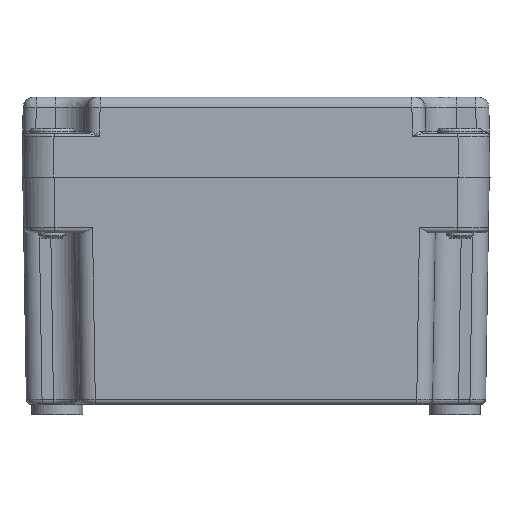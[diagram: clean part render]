
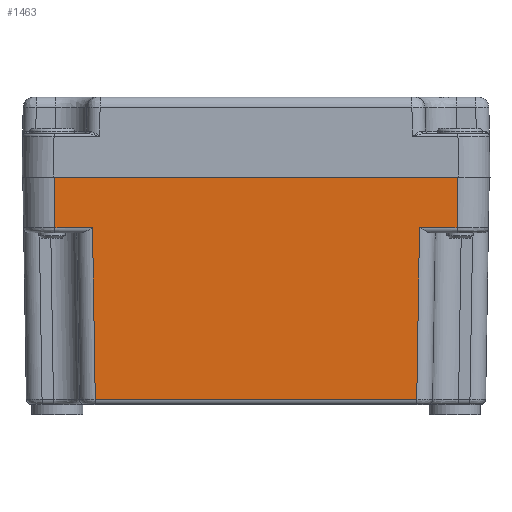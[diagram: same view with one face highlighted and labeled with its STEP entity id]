
A CAD part, front view. The second image highlights one B-rep face of the part: STEP entity #1463.
In plain terms, the highlighted planar face has unit normal (0, -1, -0.016).
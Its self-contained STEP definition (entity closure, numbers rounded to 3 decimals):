
#1183=CARTESIAN_POINT('',(-38.444,-44.444,-9.716));
#1184=VERTEX_POINT('',#1183);
#1202=CARTESIAN_POINT('',(-31.266,-44.444,-9.716));
#1203=VERTEX_POINT('',#1202);
#1215=CARTESIAN_POINT('',(-31.266,-44.444,-9.716));
#1216=DIRECTION('',(-1.0,0.0,0.0));
#1217=VECTOR('',#1216,7.178);
#1218=LINE('',#1215,#1217);
#1219=EDGE_CURVE('',#1203,#1184,#1218,.T.);
#1389=CARTESIAN_POINT('',(-38.601,-44.6,0.0));
#1390=VERTEX_POINT('',#1389);
#1391=CARTESIAN_POINT('',(-38.444,-44.444,-9.716));
#1392=DIRECTION('',(-0.016,-0.016,1.));
#1393=VECTOR('',#1392,9.719);
#1394=LINE('',#1391,#1393);
#1395=EDGE_CURVE('',#1184,#1390,#1394,.T.);
#1408=CARTESIAN_POINT('',(44.6,-44.6,0.0));
#1409=DIRECTION('',(0.0,-1.,-0.016));
#1410=DIRECTION('',(0.0,0.016,-1.));
#1411=AXIS2_PLACEMENT_3D('',#1408,#1409,#1410);
#1412=PLANE('',#1411);
#1413=ORIENTED_EDGE('',*,*,#1219,.F.);
#1414=CARTESIAN_POINT('',(-30.738,-43.916,-42.516));
#1415=VERTEX_POINT('',#1414);
#1416=CARTESIAN_POINT('',(-31.266,-44.444,-9.716));
#1417=DIRECTION('',(0.016,0.016,-1.));
#1418=VECTOR('',#1417,32.808);
#1419=LINE('',#1416,#1418);
#1420=EDGE_CURVE('',#1203,#1415,#1419,.T.);
#1421=ORIENTED_EDGE('',*,*,#1420,.T.);
#1422=CARTESIAN_POINT('',(30.738,-43.916,-42.516));
#1423=VERTEX_POINT('',#1422);
#1424=CARTESIAN_POINT('',(30.738,-43.916,-42.516));
#1425=DIRECTION('',(-1.0,0.0,0.0));
#1426=VECTOR('',#1425,61.477);
#1427=LINE('',#1424,#1426);
#1428=EDGE_CURVE('',#1423,#1415,#1427,.T.);
#1429=ORIENTED_EDGE('',*,*,#1428,.F.);
#1430=CARTESIAN_POINT('',(31.266,-44.444,-9.716));
#1431=VERTEX_POINT('',#1430);
#1432=CARTESIAN_POINT('',(30.738,-43.916,-42.516));
#1433=DIRECTION('',(0.016,-0.016,1.));
#1434=VECTOR('',#1433,32.808);
#1435=LINE('',#1432,#1434);
#1436=EDGE_CURVE('',#1423,#1431,#1435,.T.);
#1437=ORIENTED_EDGE('',*,*,#1436,.T.);
#1438=CARTESIAN_POINT('',(38.444,-44.444,-9.716));
#1439=VERTEX_POINT('',#1438);
#1440=CARTESIAN_POINT('',(38.444,-44.444,-9.716));
#1441=DIRECTION('',(-1.0,0.0,0.0));
#1442=VECTOR('',#1441,7.178);
#1443=LINE('',#1440,#1442);
#1444=EDGE_CURVE('',#1439,#1431,#1443,.T.);
#1445=ORIENTED_EDGE('',*,*,#1444,.F.);
#1446=CARTESIAN_POINT('',(38.601,-44.6,0.0));
#1447=VERTEX_POINT('',#1446);
#1448=CARTESIAN_POINT('',(38.601,-44.6,0.0));
#1449=DIRECTION('',(-0.016,0.016,-1.));
#1450=VECTOR('',#1449,9.719);
#1451=LINE('',#1448,#1450);
#1452=EDGE_CURVE('',#1447,#1439,#1451,.T.);
#1453=ORIENTED_EDGE('',*,*,#1452,.F.);
#1454=CARTESIAN_POINT('',(38.601,-44.6,0.0));
#1455=DIRECTION('',(-1.0,0.0,0.0));
#1456=VECTOR('',#1455,77.202);
#1457=LINE('',#1454,#1456);
#1458=EDGE_CURVE('',#1447,#1390,#1457,.T.);
#1459=ORIENTED_EDGE('',*,*,#1458,.T.);
#1460=ORIENTED_EDGE('',*,*,#1395,.F.);
#1461=EDGE_LOOP('',(#1413,#1421,#1429,#1437,#1445,#1453,#1459,#1460));
#1462=FACE_OUTER_BOUND('',#1461,.T.);
#1463=ADVANCED_FACE('',(#1462),#1412,.T.);
